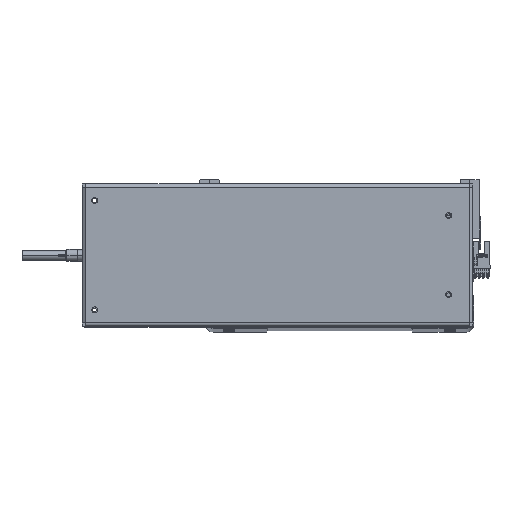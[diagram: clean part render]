
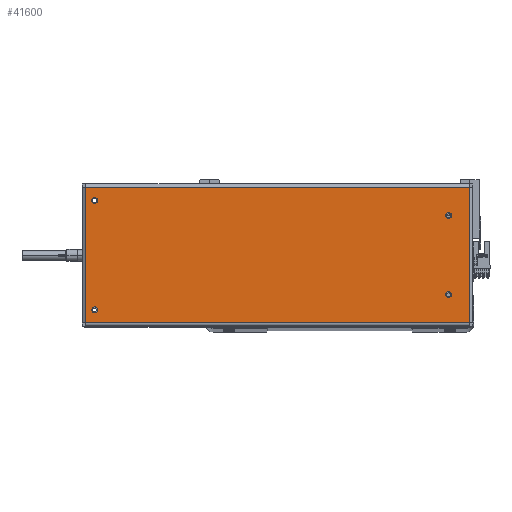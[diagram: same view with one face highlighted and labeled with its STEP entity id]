
A CAD part, top view. The second image highlights one B-rep face of the part: STEP entity #41600.
In plain terms, the highlighted planar face has unit normal (0, 0, 1).
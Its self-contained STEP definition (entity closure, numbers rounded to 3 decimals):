
#501 = EDGE_CURVE ( 'NONE', #38957, #23817, #7808, .T. ) ;
#589 = ORIENTED_EDGE ( 'NONE', *, *, #40296, .F. ) ;
#1508 = AXIS2_PLACEMENT_3D ( 'NONE', #40948, #34373, #23686 ) ;
#1771 = ORIENTED_EDGE ( 'NONE', *, *, #18234, .F. ) ;
#2145 = EDGE_CURVE ( 'NONE', #22581, #3292, #33917, .T. ) ;
#2203 = LINE ( 'NONE', #2495, #15034 ) ;
#2474 = AXIS2_PLACEMENT_3D ( 'NONE', #30151, #11051, #14337 ) ;
#2495 = CARTESIAN_POINT ( 'NONE',  ( -157.7, -55.6, 0. ) ) ;
#2620 = DIRECTION ( 'NONE',  ( 1., 0., 0. ) ) ;
#3292 = VERTEX_POINT ( 'NONE', #16399 ) ;
#3325 = EDGE_CURVE ( 'NONE', #31636, #6748, #2203, .T. ) ;
#3442 = CARTESIAN_POINT ( 'NONE',  ( 153., -45., 0. ) ) ;
#3575 = CARTESIAN_POINT ( 'NONE',  ( 150.5, 45., 0. ) ) ;
#3965 = CARTESIAN_POINT ( 'NONE',  ( 148., 45., 0. ) ) ;
#4123 = ORIENTED_EDGE ( 'NONE', *, *, #9696, .T. ) ;
#5982 = AXIS2_PLACEMENT_3D ( 'NONE', #3575, #26449, #6301 ) ;
#6284 = LINE ( 'NONE', #16575, #8324 ) ;
#6301 = DIRECTION ( 'NONE',  ( 1., 0., 0. ) ) ;
#6535 = DIRECTION ( 'NONE',  ( 0., -1., 0. ) ) ;
#6743 = EDGE_CURVE ( 'NONE', #19867, #11850, #32568, .T. ) ;
#6748 = VERTEX_POINT ( 'NONE', #31894 ) ;
#6868 = LINE ( 'NONE', #36684, #9428 ) ;
#6900 = CIRCLE ( 'NONE', #23140, 2.5 ) ;
#7297 = ORIENTED_EDGE ( 'NONE', *, *, #19848, .F. ) ;
#7521 = ORIENTED_EDGE ( 'NONE', *, *, #28912, .T. ) ;
#7529 = CARTESIAN_POINT ( 'NONE',  ( 153., 45., 0. ) ) ;
#7808 = CIRCLE ( 'NONE', #11618, 2.5 ) ;
#8324 = VECTOR ( 'NONE', #6535, 1000. ) ;
#9085 = VERTEX_POINT ( 'NONE', #35431 ) ;
#9428 = VECTOR ( 'NONE', #20723, 1000. ) ;
#9696 = EDGE_CURVE ( 'NONE', #14318, #16918, #38562, .T. ) ;
#9771 = FACE_BOUND ( 'NONE', #12521, .T. ) ;
#10827 = FACE_BOUND ( 'NONE', #41243, .T. ) ;
#11051 = DIRECTION ( 'NONE',  ( 0., 0., 1. ) ) ;
#11618 = AXIS2_PLACEMENT_3D ( 'NONE', #17124, #16972, #39815 ) ;
#11850 = VERTEX_POINT ( 'NONE', #20046 ) ;
#12250 = CARTESIAN_POINT ( 'NONE',  ( -157.6, 55.6, 0. ) ) ;
#12521 = EDGE_LOOP ( 'NONE', ( #7297, #26708 ) ) ;
#13719 = CARTESIAN_POINT ( 'NONE',  ( 157.6, 55.6, 0. ) ) ;
#14318 = VERTEX_POINT ( 'NONE', #13719 ) ;
#14337 = DIRECTION ( 'NONE',  ( 1., 0., 0. ) ) ;
#14557 = CARTESIAN_POINT ( 'NONE',  ( -143., 32.5, 0. ) ) ;
#15034 = VECTOR ( 'NONE', #2620, 1000. ) ;
#16399 = CARTESIAN_POINT ( 'NONE',  ( -138., 32.5, 0. ) ) ;
#16439 = FACE_BOUND ( 'NONE', #27284, .T. ) ;
#16575 = CARTESIAN_POINT ( 'NONE',  ( -157.6, 55.6, 0. ) ) ;
#16588 = EDGE_CURVE ( 'NONE', #6748, #14318, #6868, .T. ) ;
#16703 = ORIENTED_EDGE ( 'NONE', *, *, #16588, .T. ) ;
#16918 = VERTEX_POINT ( 'NONE', #12250 ) ;
#16963 = ORIENTED_EDGE ( 'NONE', *, *, #2145, .F. ) ;
#16972 = DIRECTION ( 'NONE',  ( 0., 0., 1. ) ) ;
#17124 = CARTESIAN_POINT ( 'NONE',  ( 150.5, 45., 0. ) ) ;
#18234 = EDGE_CURVE ( 'NONE', #9085, #24368, #27228, .T. ) ;
#19848 = EDGE_CURVE ( 'NONE', #23817, #38957, #38822, .T. ) ;
#19867 = VERTEX_POINT ( 'NONE', #3442 ) ;
#19910 = CIRCLE ( 'NONE', #2474, 2.5 ) ;
#20046 = CARTESIAN_POINT ( 'NONE',  ( 148., -45., 0. ) ) ;
#20723 = DIRECTION ( 'NONE',  ( 0., 1., 0. ) ) ;
#21566 = FACE_OUTER_BOUND ( 'NONE', #39460, .T. ) ;
#22317 = CARTESIAN_POINT ( 'NONE',  ( 150.5, -45., 0. ) ) ;
#22581 = VERTEX_POINT ( 'NONE', #14557 ) ;
#23110 = CARTESIAN_POINT ( 'NONE',  ( 157.7, 55.6, 0. ) ) ;
#23140 = AXIS2_PLACEMENT_3D ( 'NONE', #22317, #25593, #28838 ) ;
#23686 = DIRECTION ( 'NONE',  ( 1., 0., 0. ) ) ;
#23817 = VERTEX_POINT ( 'NONE', #7529 ) ;
#24150 = DIRECTION ( 'NONE',  ( -1., 0., 0. ) ) ;
#24368 = VERTEX_POINT ( 'NONE', #40074 ) ;
#25573 = DIRECTION ( 'NONE',  ( 1., 0., 0. ) ) ;
#25593 = DIRECTION ( 'NONE',  ( 0., 0., 1. ) ) ;
#25877 = EDGE_CURVE ( 'NONE', #11850, #19867, #6900, .T. ) ;
#26208 = AXIS2_PLACEMENT_3D ( 'NONE', #27402, #40124, #30241 ) ;
#26235 = ORIENTED_EDGE ( 'NONE', *, *, #25877, .F. ) ;
#26449 = DIRECTION ( 'NONE',  ( 0., 0., 1. ) ) ;
#26708 = ORIENTED_EDGE ( 'NONE', *, *, #501, .F. ) ;
#27228 = CIRCLE ( 'NONE', #1508, 2.5 ) ;
#27284 = EDGE_LOOP ( 'NONE', ( #1771, #28366 ) ) ;
#27402 = CARTESIAN_POINT ( 'NONE',  ( -140.5, 32.5, 0. ) ) ;
#27425 = CARTESIAN_POINT ( 'NONE',  ( 157.7, 58.5, 0. ) ) ;
#28366 = ORIENTED_EDGE ( 'NONE', *, *, #31264, .F. ) ;
#28838 = DIRECTION ( 'NONE',  ( 1., 0., 0. ) ) ;
#28912 = EDGE_CURVE ( 'NONE', #16918, #31636, #6284, .T. ) ;
#30151 = CARTESIAN_POINT ( 'NONE',  ( -140.5, -32.5, 0. ) ) ;
#30241 = DIRECTION ( 'NONE',  ( 1., 0., 0. ) ) ;
#31131 = ORIENTED_EDGE ( 'NONE', *, *, #6743, .F. ) ;
#31264 = EDGE_CURVE ( 'NONE', #24368, #9085, #19910, .T. ) ;
#31636 = VERTEX_POINT ( 'NONE', #32405 ) ;
#31747 = DIRECTION ( 'NONE',  ( 0., 0., 1. ) ) ;
#31894 = CARTESIAN_POINT ( 'NONE',  ( 157.6, -55.6, 0. ) ) ;
#32405 = CARTESIAN_POINT ( 'NONE',  ( -157.6, -55.6, 0. ) ) ;
#32568 = CIRCLE ( 'NONE', #39535, 2.5 ) ;
#32788 = DIRECTION ( 'NONE',  ( -1., 0., 0. ) ) ;
#32826 = CIRCLE ( 'NONE', #36628, 2.5 ) ;
#33689 = DIRECTION ( 'NONE',  ( 0., 0., -1. ) ) ;
#33917 = CIRCLE ( 'NONE', #26208, 2.5 ) ;
#34373 = DIRECTION ( 'NONE',  ( 0., 0., 1. ) ) ;
#35312 = FACE_BOUND ( 'NONE', #39241, .T. ) ;
#35431 = CARTESIAN_POINT ( 'NONE',  ( -138., -32.5, 0. ) ) ;
#36628 = AXIS2_PLACEMENT_3D ( 'NONE', #38703, #41983, #25573 ) ;
#36684 = CARTESIAN_POINT ( 'NONE',  ( 157.6, -55.6, 0. ) ) ;
#38067 = CARTESIAN_POINT ( 'NONE',  ( 150.5, -45., 0. ) ) ;
#38309 = AXIS2_PLACEMENT_3D ( 'NONE', #27425, #33689, #24150 ) ;
#38562 = LINE ( 'NONE', #23110, #39088 ) ;
#38703 = CARTESIAN_POINT ( 'NONE',  ( -140.5, 32.5, 0. ) ) ;
#38822 = CIRCLE ( 'NONE', #5982, 2.5 ) ;
#38957 = VERTEX_POINT ( 'NONE', #3965 ) ;
#39088 = VECTOR ( 'NONE', #32788, 1000. ) ;
#39241 = EDGE_LOOP ( 'NONE', ( #589, #16963 ) ) ;
#39460 = EDGE_LOOP ( 'NONE', ( #7521, #42028, #16703, #4123 ) ) ;
#39535 = AXIS2_PLACEMENT_3D ( 'NONE', #38067, #31747, #41632 ) ;
#39815 = DIRECTION ( 'NONE',  ( 1., 0., 0. ) ) ;
#40074 = CARTESIAN_POINT ( 'NONE',  ( -143., -32.5, 0. ) ) ;
#40124 = DIRECTION ( 'NONE',  ( 0., 0., 1. ) ) ;
#40148 = PLANE ( 'NONE',  #38309 ) ;
#40296 = EDGE_CURVE ( 'NONE', #3292, #22581, #32826, .T. ) ;
#40948 = CARTESIAN_POINT ( 'NONE',  ( -140.5, -32.5, 0. ) ) ;
#41243 = EDGE_LOOP ( 'NONE', ( #31131, #26235 ) ) ;
#41600 = ADVANCED_FACE ( 'NONE', ( #16439, #35312, #10827, #9771, #21566 ), #40148, .F. ) ;
#41632 = DIRECTION ( 'NONE',  ( 1., 0., 0. ) ) ;
#41983 = DIRECTION ( 'NONE',  ( 0., 0., 1. ) ) ;
#42028 = ORIENTED_EDGE ( 'NONE', *, *, #3325, .T. ) ;
